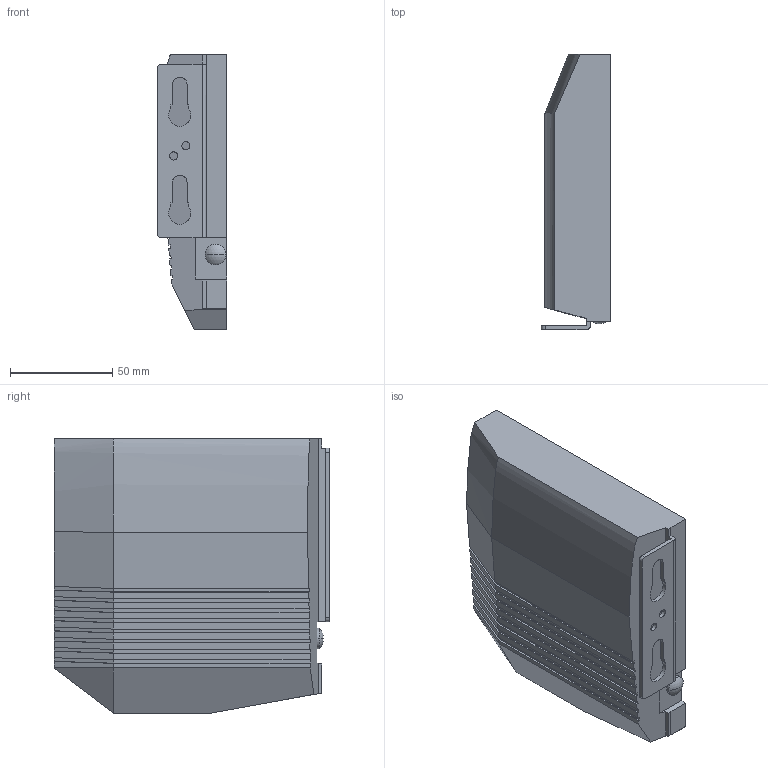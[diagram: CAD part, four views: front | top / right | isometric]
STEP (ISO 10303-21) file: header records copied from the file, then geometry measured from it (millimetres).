
FILE_DESCRIPTION (( 'STEP AP203' ), '1' );
FILE_NAME ('Kinvaro_T-65_rechts_D2672002325~0.step', '2012-05-04T06:46:49', ( 'admin' ), ( 'Hewlett-Packard Company' ), 'SwSTEP 2.0', 'SolidWorks 2011', '' );
FILE_SCHEMA (( 'CONFIG_CONTROL_DESIGN' ));
Length unit declared in the file: millimetre
Products named in the file (1): Kinvaro_T-65_rechts_D2672002325~0
Bounding box: 34 x 135.03 x 134.7 mm (x, y, z)
Volume: 465028.1 mm3; surface area: 53146.2 mm2
Topology: 1 solids, 1 shells, 127 faces, 352 edges, 232 vertices
Faces by surface type: plane 94, cylinder 28, bspline 3, sphere 2
Entity records: 4338 total; most frequent: CARTESIAN_POINT 1029, ORIENTED_EDGE 704, DIRECTION 619, EDGE_CURVE 352, VECTOR 285, LINE 285, VERTEX_POINT 232, AXIS2_PLACEMENT_3D 167
